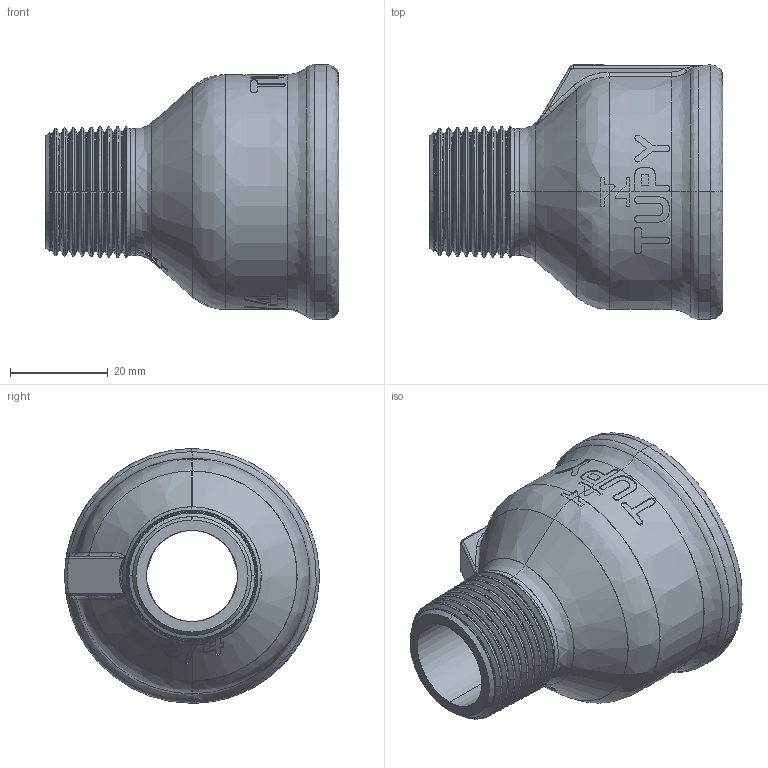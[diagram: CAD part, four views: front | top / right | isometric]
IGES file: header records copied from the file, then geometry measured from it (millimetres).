
Start section: SolidWorks IGES file using analytic representation for surfaces
Global section: file name: C:\Users\Joel Rosa\Desktop\Tubulação\12-35-OK\12-35-036.IGS; native system: SolidWorks 2011; preprocessor: SolidWorks 2011; author: Joel Rosa; date: 121209.031341; units: millimetre
Bounding box: 60 x 52 x 52 mm (x, y, z)
Surface area: 17532.6 mm2 (no closed solid volume)
Topology: 0 solids, 0 shells, 412 faces, 3532 edges, 3531 vertices
Faces by surface type: bspline 290, revolution 122
